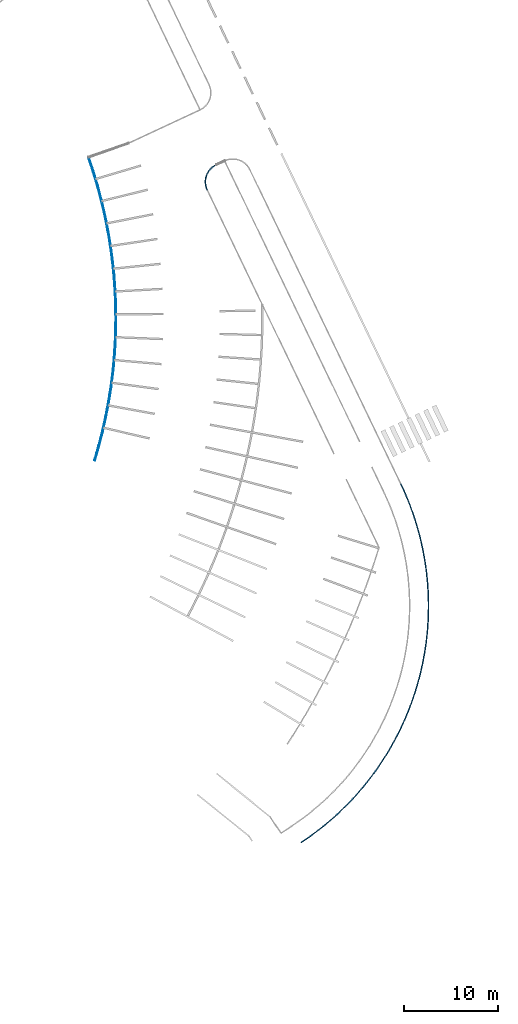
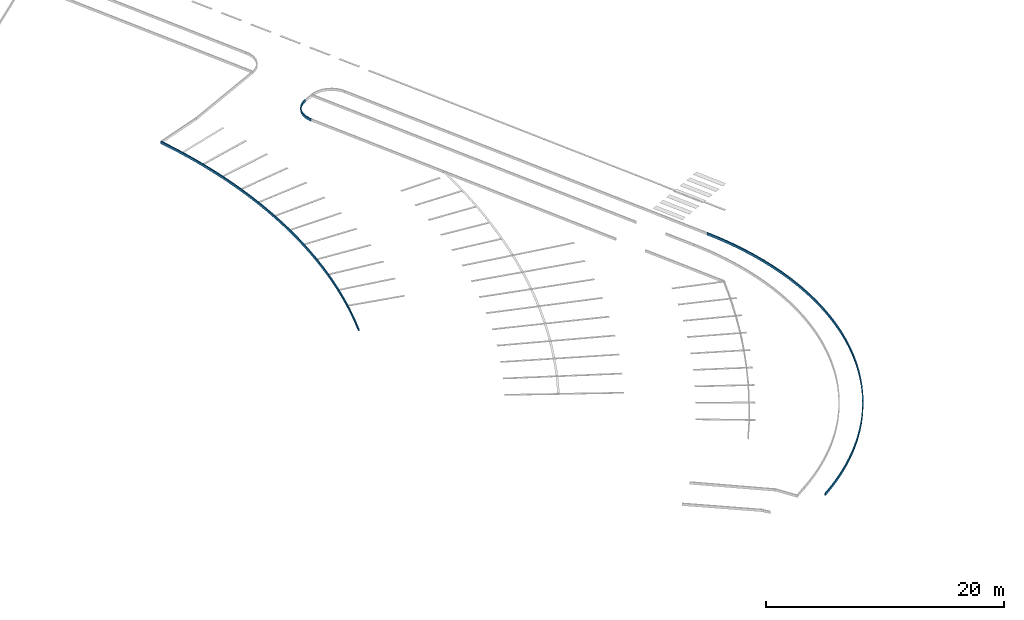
# One storey, part 117 of 157: 3 beams.
"""IFC2X3 building model written with IfcOpenShell, lengths in millimetres."""

from ifc_helpers import new_model, entity, si_unit, converted_unit, derived_unit, direction, frame, origin, place, context, subcontext, project, spatial, faceted_brep, material, type_object, element, save


model = new_model("IFC2X3")

# Units and contexts
model_context = context("Model", 3, precision=0.01, world=origin(), true_north=direction((6.123031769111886e-17, 1.0)))
body_context = subcontext(model_context, "Body", "Model", "MODEL_VIEW")
ifc_project = project(units=[si_unit("LENGTHUNIT", "METRE", prefix="MILLI"), si_unit("AREAUNIT", "SQUARE_METRE"), si_unit("VOLUMEUNIT", "CUBIC_METRE"), converted_unit("PLANEANGLEUNIT", "DEGREE", entity("IfcRatioMeasure", 0.017453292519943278), si_unit("PLANEANGLEUNIT", "RADIAN"), dimensions=[0, 0, 0, 0, 0, 0, 0]), si_unit("MASSUNIT", "GRAM", prefix="KILO"), derived_unit("MASSDENSITYUNIT", [(si_unit("MASSUNIT", "GRAM", prefix="KILO"), 1), (si_unit("LENGTHUNIT", "METRE"), -3)]), derived_unit("MOMENTOFINERTIAUNIT", [(si_unit("LENGTHUNIT", "METRE"), 4)]), si_unit("TIMEUNIT", "SECOND"), si_unit("FREQUENCYUNIT", "HERTZ"), si_unit("THERMODYNAMICTEMPERATUREUNIT", "DEGREE_CELSIUS"), derived_unit("THERMALTRANSMITTANCEUNIT", [(si_unit("MASSUNIT", "GRAM", prefix="KILO"), 1), (si_unit("THERMODYNAMICTEMPERATUREUNIT", "KELVIN"), -1), (si_unit("TIMEUNIT", "SECOND"), -3)]), derived_unit("THERMALCONDUCTANCEUNIT", [(si_unit("MASSUNIT", "GRAM", prefix="KILO"), 1), (si_unit("LENGTHUNIT", "METRE"), 1), (si_unit("THERMODYNAMICTEMPERATUREUNIT", "KELVIN"), -1), (si_unit("TIMEUNIT", "SECOND"), -3)]), derived_unit("VOLUMETRICFLOWRATEUNIT", [(si_unit("LENGTHUNIT", "METRE"), 3), (si_unit("TIMEUNIT", "SECOND"), -1)]), derived_unit("MASSFLOWRATEUNIT", [(si_unit("MASSUNIT", "GRAM", prefix="KILO"), 1), (si_unit("TIMEUNIT", "SECOND"), -1)]), derived_unit("ROTATIONALFREQUENCYUNIT", [(si_unit("TIMEUNIT", "SECOND"), -1)]), si_unit("ELECTRICCURRENTUNIT", "AMPERE"), si_unit("ELECTRICVOLTAGEUNIT", "VOLT"), si_unit("POWERUNIT", "WATT"), converted_unit("FORCEUNIT", "KIP", entity("IfcRatioMeasure", 2.088543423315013e-05), si_unit("FORCEUNIT", "NEWTON"), dimensions=[1, 1, -2, 0, 0, 0, 0]), si_unit("ILLUMINANCEUNIT", "LUX"), si_unit("LUMINOUSFLUXUNIT", "LUMEN"), si_unit("LUMINOUSINTENSITYUNIT", "CANDELA"), derived_unit("USERDEFINED", [(si_unit("MASSUNIT", "GRAM", prefix="KILO"), -1), (si_unit("LENGTHUNIT", "METRE"), -2), (si_unit("TIMEUNIT", "SECOND"), 3), (si_unit("LUMINOUSFLUXUNIT", "LUMEN"), 1)]), derived_unit("USERDEFINED", [(si_unit("MASSUNIT", "GRAM", prefix="KILO"), 1), (si_unit("LENGTHUNIT", "METRE"), 3), (si_unit("TIMEUNIT", "SECOND"), -3), (si_unit("ELECTRICCURRENTUNIT", "AMPERE"), -2)]), derived_unit("USERDEFINED", [(si_unit("LENGTHUNIT", "METRE"), 2), (si_unit("TIMEUNIT", "SECOND"), -2)]), derived_unit("SOUNDPOWERUNIT", [(si_unit("MASSUNIT", "GRAM", prefix="KILO"), 1), (si_unit("LENGTHUNIT", "METRE"), 2), (si_unit("TIMEUNIT", "SECOND"), -3)]), derived_unit("SOUNDPRESSUREUNIT", [(si_unit("MASSUNIT", "GRAM", prefix="KILO"), 1), (si_unit("LENGTHUNIT", "METRE"), -1), (si_unit("TIMEUNIT", "SECOND"), -2)]), derived_unit("LINEARVELOCITYUNIT", [(si_unit("LENGTHUNIT", "METRE"), 1), (si_unit("TIMEUNIT", "SECOND"), -1)]), si_unit("PRESSUREUNIT", "PASCAL"), derived_unit("USERDEFINED", [(si_unit("LENGTHUNIT", "METRE"), -2), (si_unit("MASSUNIT", "GRAM", prefix="KILO"), 1), (si_unit("TIMEUNIT", "SECOND"), -2)]), derived_unit("LINEARFORCEUNIT", [(si_unit("MASSUNIT", "GRAM", prefix="KILO"), 1), (si_unit("LENGTHUNIT", "METRE"), 1), (si_unit("TIMEUNIT", "SECOND"), -2), (si_unit("LENGTHUNIT", "METRE"), -1)]), derived_unit("PLANARFORCEUNIT", [(si_unit("MASSUNIT", "GRAM", prefix="KILO"), 1), (si_unit("LENGTHUNIT", "METRE"), 1), (si_unit("TIMEUNIT", "SECOND"), -2), (si_unit("LENGTHUNIT", "METRE"), -2)]), derived_unit("SPECIFICHEATCAPACITYUNIT", [(si_unit("LENGTHUNIT", "METRE"), 2), (si_unit("TIMEUNIT", "SECOND"), -2), (si_unit("THERMODYNAMICTEMPERATUREUNIT", "KELVIN"), -1)]), derived_unit("VAPORPERMEABILITYUNIT", [(si_unit("TIMEUNIT", "SECOND"), 1), (si_unit("LENGTHUNIT", "METRE"), -1)]), derived_unit("DYNAMICVISCOSITYUNIT", [(si_unit("MASSUNIT", "GRAM", prefix="KILO"), 1), (si_unit("LENGTHUNIT", "METRE"), -1), (si_unit("TIMEUNIT", "SECOND"), -1)]), derived_unit("THERMALEXPANSIONCOEFFICIENTUNIT", [(si_unit("THERMODYNAMICTEMPERATUREUNIT", "KELVIN"), -1)])], contexts=[model_context])

# Site, building, storey
site_placement = place(None, frame((0.0, 0.0, 0.0), z_axis=(0.0, 0.0, 1.0), x_axis=(0.8191520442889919, 0.5735764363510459, 0.0)))
site = spatial("IfcSite", under=ifc_project, at=site_placement, Name="Default", CompositionType="ELEMENT")
building_placement = place(site_placement, origin())
building = spatial("IfcBuilding", under=site, at=building_placement, CompositionType="ELEMENT")
storey_placement = place(building_placement, origin())
storey = spatial("IfcBuildingStorey", under=building, at=storey_placement, Name="1.EG +0.00", CompositionType="ELEMENT", Elevation=-4.331468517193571e-12)

# Beams
ifc_material = material(Name="Paveta_bordur")
beam_type_1 = type_object("IfcBeamType", Name="Beam-144", PredefinedType="NOTDEFINED")
beam_1_placement = place(storey_placement, frame((-13927.409499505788, -154301.68766365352, 260.0)))
element("IfcBeam", 1, at=beam_1_placement, inside=storey, type_object=beam_type_1, material=ifc_material, Name="Beam-144:Beam-144", ObjectType="Beam-144:Beam-144", context=body_context, shape_type="Brep", body=[
    faceted_brep([(4.402758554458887, 112.54106146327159, 250.0), (4.402758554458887, 112.54106146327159, 0.0), (1.5952722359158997, 12.58047912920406, 0.0), (1.5952722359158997, 12.58047912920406, 250.0), (30497.38357112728, 25177.012778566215, 250.0), (30497.38357112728, 25177.012778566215, 0.0), (30398.7075689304, 25193.23148968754, 0.0), (30398.7075689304, 25193.23148968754, 250.0), (24671.965879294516, 11739.813377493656, 0.0), (23900.87172071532, 10777.941889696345, 0.0), (23090.97418255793, 9848.507148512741, 0.0), (22243.63634906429, 8953.073423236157, 0.0), (21360.284317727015, 8093.147758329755, 0.0), (20442.404799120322, 7270.177437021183, 0.0), (19491.542614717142, 6485.547545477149, 0.0), (18509.298096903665, 5740.578641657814, 0.0), (17497.324395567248, 5036.524532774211, 0.0), (16457.324695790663, 4374.570165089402, 0.0), (15391.049351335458, 3755.8296296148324, 0.0), (14300.292938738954, 3181.3442870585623, 0.0), (13186.891236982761, 2652.0810151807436, 0.0), (12052.718137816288, 2168.9305815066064, 0.0), (10899.68249193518, 1732.706144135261, 0.0), (9729.724896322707, 1344.1418831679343, 0.0), (8544.814428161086, 1003.8917650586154, 0.0), (7346.945330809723, 712.5284419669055, 0.0), (6138.13365742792, 470.54228796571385, 0.0), (4920.413877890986, 278.3405737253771, 0.0), (3695.8354547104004, 136.2467810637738, 0.0), (2466.4593937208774, 44.50005851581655, 0.0), (1234.354775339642, 3.2548188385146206, 0.0), (618.6836607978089, 101.59241099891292, 0.0), (1233.0599005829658, 103.24643498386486, 0.0), (1847.2729468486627, 117.50243740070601, 0.0), (2461.064337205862, 144.35441928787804, 0.0), (3074.175786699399, 183.79108126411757, 0.0), (3686.349296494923, 235.79582828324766, 0.0), (4297.327262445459, 300.3467766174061, 0.0), (4906.852583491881, 377.4167630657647, 0.0), (5514.668769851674, 466.97335638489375, 0.0), (6120.520050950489, 568.9788709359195, 0.0), (6724.151483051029, 683.3903825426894, 0.0), (7325.309056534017, 810.1597465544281, 0.0), (7923.739802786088, 949.233618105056, 0.0), (8519.191900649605, 1100.5534745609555, 0.0), (9111.414782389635, 1264.0556401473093, 0.0), (9700.159239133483, 1439.6713127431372, 0.0), (10285.177525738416, 1627.3265928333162, 0.0), (10866.223465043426, 1826.9425146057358, 0.0), (11443.052551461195, 2038.435079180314, 0.0), (12015.422053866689, 2261.7152899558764, 0.0), (12583.091117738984, 2496.689190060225, 0.0), (13145.820866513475, 2743.257901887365, 0.0), (13703.374502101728, 3001.3176687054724, 0.0), (14255.517404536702, 3270.7598983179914, 0.0), (14802.017230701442, 3551.4712087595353, 0.0), (15342.644012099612, 3843.3334760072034, 0.0), (15877.17025162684, 4146.223883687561, 0.0), (16405.371019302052, 4460.014974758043, 0.0), (16927.024046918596, 4784.574705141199, 0.0), (17441.909821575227, 5119.766499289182, 0.0), (17949.811678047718, 5465.449307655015, 0.0), (18450.515889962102, 5821.477666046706, 0.0), (18943.811759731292, 6187.701756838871, 0.0), (19429.49170721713, 6563.967472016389, 0.0), (19907.351357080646, 6950.116478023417, 0.0), (20377.1896247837, 7345.986282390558, 0.0), (20838.808801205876, 7751.410302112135, 0.0), (21292.01463584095, 8166.2179337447, 0.0), (21736.61641853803, 8590.234625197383, 0.0), (22172.427059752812, 9023.281949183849, 0.0), (22599.26316927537, 9465.177678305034, 0.0), (23016.945133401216, 9915.735861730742, 0.0), (23425.29719051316, 10374.76690344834, 0.0), (23824.147505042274, 10842.077642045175, 0.0), (24213.32823977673, 11317.4714319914, 0.0), (24592.675626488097, 11800.748226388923, 0.0), (24962.030034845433, 12291.70466115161, 0.0), (25321.236039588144, 12790.134140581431, 0.0), (25670.14248592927, 13295.826924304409, 0.0), (26008.60255316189, 13808.570215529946, 0.0), (26336.473816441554, 14328.148250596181, 0.0), (26653.618306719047, 14854.34238976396, 0.0), (26959.902568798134, 15386.93120922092, 0.0), (27255.197717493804, 15925.690594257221, 0.0), (27539.379491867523, 16470.39383357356, 0.0), (27812.32830751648, 17020.81171468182, 0.0), (28073.92930689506, 17576.71262035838, 0.0), (28324.0724076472, 18137.86262610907, 0.0), (28562.65234892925, 18704.02559860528, 0.0), (28789.568735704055, 19274.963295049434, 0.0), (29004.726080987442, 19850.435463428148, 0.0), (29208.03384602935, 20430.199943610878, 0.0), (29399.406478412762, 21014.01276925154, 0.0), (29578.763448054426, 21601.628270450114, 0.0), (29746.029281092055, 22192.79917713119, 0.0), (29901.133591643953, 22787.276723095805, 0.0), (30044.01111142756, 23384.810750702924, 0.0), (30174.60171722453, 23985.149816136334, 0.0), (30292.85045618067, 24588.04129521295, 0.0), (30272.52945280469, 23964.897443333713, 0.0), (29998.148245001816, 22763.02477402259, 0.0), (29674.701740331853, 21573.41756193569, 0.0), (29302.734309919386, 20398.077955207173, 0.0), (28882.871987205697, 19238.98408912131, 0.0), (28415.821414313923, 18098.086756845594, 0.0), (27902.36865274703, 16977.306126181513, 0.0), (27343.377860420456, 15878.528507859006, 0.0), (26739.789837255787, 14803.603180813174, 0.0), (26092.62044178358, 13754.339279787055, 0.0), (25402.95888141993, 12732.50275049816, 0.0), (6138.133657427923, 470.5422879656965, 250.0), (4920.413877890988, 278.3405737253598, 250.0), (7346.945330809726, 712.5284419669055, 250.0), (8544.814428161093, 1003.8917650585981, 250.0), (1234.354775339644, 3.2548188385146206, 250.0), (2466.4593937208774, 44.50005851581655, 250.0), (3695.8354547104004, 136.2467810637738, 250.0), (9729.724896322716, 1344.141883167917, 250.0), (15391.04935133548, 3755.8296296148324, 250.0), (16457.324695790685, 4374.570165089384, 250.0), (17497.324395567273, 5036.524532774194, 250.0), (18509.298096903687, 5740.578641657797, 250.0), (10899.682491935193, 1732.7061441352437, 250.0), (12052.718137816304, 2168.930581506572, 250.0), (14300.292938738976, 3181.3442870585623, 250.0), (13186.891236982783, 2652.0810151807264, 250.0), (19491.542614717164, 6485.54754547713, 250.0), (20442.404799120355, 7270.177437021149, 250.0), (24671.965879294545, 11739.813377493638, 250.0), (23900.871720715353, 10777.94188969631, 250.0), (25402.958881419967, 12732.502750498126, 250.0), (26092.62044178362, 13754.33927978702, 250.0), (21360.284317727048, 8093.147758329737, 250.0), (22243.63634906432, 8953.073423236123, 250.0), (23090.974182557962, 9848.507148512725, 250.0), (26739.789837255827, 14803.603180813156, 250.0), (29302.73430991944, 20398.077955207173, 250.0), (29674.701740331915, 21573.41756193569, 250.0), (29998.14824500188, 22763.024774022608, 250.0), (30272.52945280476, 23964.897443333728, 250.0), (27343.3778604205, 15878.528507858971, 250.0), (27902.368652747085, 16977.3061261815, 250.0), (28882.87198720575, 19238.98408912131, 250.0), (28415.821414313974, 18098.086756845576, 250.0), (24962.030034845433, 12291.70466115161, 250.0), (24592.675626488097, 11800.748226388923, 250.0), (24213.32823977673, 11317.4714319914, 250.0), (23824.147505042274, 10842.077642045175, 250.0), (23425.29719051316, 10374.76690344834, 250.0), (23016.945133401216, 9915.735861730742, 250.0), (22599.26316927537, 9465.177678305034, 250.0), (22172.427059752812, 9023.281949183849, 250.0), (21736.61641853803, 8590.234625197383, 250.0), (21292.01463584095, 8166.2179337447, 250.0), (20838.808801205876, 7751.410302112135, 250.0), (20377.1896247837, 7345.986282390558, 250.0), (19907.351357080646, 6950.116478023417, 250.0), (19429.49170721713, 6563.967472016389, 250.0), (18943.811759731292, 6187.701756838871, 250.0), (18450.515889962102, 5821.477666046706, 250.0), (17949.811678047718, 5465.449307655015, 250.0), (17441.909821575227, 5119.766499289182, 250.0), (16927.024046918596, 4784.574705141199, 250.0), (16405.371019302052, 4460.014974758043, 250.0), (15877.17025162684, 4146.223883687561, 250.0), (15342.644012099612, 3843.3334760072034, 250.0), (14802.017230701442, 3551.4712087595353, 250.0), (14255.517404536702, 3270.7598983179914, 250.0), (13703.374502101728, 3001.3176687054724, 250.0), (13145.820866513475, 2743.257901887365, 250.0), (12583.091117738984, 2496.689190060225, 250.0), (12015.422053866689, 2261.7152899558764, 250.0), (11443.052551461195, 2038.435079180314, 250.0), (10866.223465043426, 1826.9425146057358, 250.0), (10285.177525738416, 1627.3265928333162, 250.0), (9700.159239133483, 1439.6713127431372, 250.0), (9111.414782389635, 1264.0556401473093, 250.0), (8519.191900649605, 1100.5534745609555, 250.0), (7923.739802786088, 949.233618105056, 250.0), (7325.309056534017, 810.1597465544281, 250.0), (6724.151483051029, 683.3903825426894, 250.0), (6120.520050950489, 568.9788709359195, 250.0), (5514.668769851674, 466.97335638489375, 250.0), (4906.852583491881, 377.4167630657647, 250.0), (4297.327262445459, 300.3467766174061, 250.0), (3686.349296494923, 235.79582828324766, 250.0), (3074.175786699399, 183.79108126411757, 250.0), (2461.064337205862, 144.35441928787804, 250.0), (1847.2729468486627, 117.50243740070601, 250.0), (1233.0599005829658, 103.24643498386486, 250.0), (618.6836607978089, 101.59241099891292, 250.0), (30292.85045618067, 24588.04129521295, 250.0), (30174.60171722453, 23985.149816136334, 250.0), (30044.01111142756, 23384.810750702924, 250.0), (29901.133591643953, 22787.276723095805, 250.0), (29746.029281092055, 22192.79917713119, 250.0), (29578.763448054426, 21601.628270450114, 250.0), (29399.406478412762, 21014.01276925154, 250.0), (29208.03384602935, 20430.199943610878, 250.0), (29004.726080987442, 19850.435463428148, 250.0), (28789.568735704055, 19274.963295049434, 250.0), (28562.65234892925, 18704.02559860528, 250.0), (28324.0724076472, 18137.86262610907, 250.0), (28073.92930689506, 17576.71262035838, 250.0), (27812.32830751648, 17020.81171468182, 250.0), (27539.379491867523, 16470.39383357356, 250.0), (27255.197717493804, 15925.690594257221, 250.0), (26959.902568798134, 15386.93120922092, 250.0), (26653.618306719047, 14854.34238976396, 250.0), (26336.473816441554, 14328.148250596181, 250.0), (26008.60255316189, 13808.570215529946, 250.0), (25670.14248592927, 13295.826924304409, 250.0), (25321.236039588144, 12790.134140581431, 250.0)], [[[0, 1, 2, 3]], [[4, 5, 6, 7]], [[8, 9, 10, 11, 12, 13, 14, 15, 16, 17, 18, 19, 20, 21, 22, 23, 24, 25, 26, 27, 28, 29, 30, 2, 1, 31, 32, 33, 34, 35, 36, 37, 38, 39, 40, 41, 42, 43, 44, 45, 46, 47, 48, 49, 50, 51, 52, 53, 54, 55, 56, 57, 58, 59, 60, 61, 62, 63, 64, 65, 66, 67, 68, 69, 70, 71, 72, 73, 74, 75, 76, 77, 78, 79, 80, 81, 82, 83, 84, 85, 86, 87, 88, 89, 90, 91, 92, 93, 94, 95, 96, 97, 98, 99, 6, 5, 100, 101, 102, 103, 104, 105, 106, 107, 108, 109, 110]], [[26, 111, 112, 27]], [[25, 113, 111, 26]], [[24, 114, 113, 25]], [[115, 3, 2, 30]], [[116, 29, 28, 117]], [[27, 112, 117, 28]], [[115, 30, 29, 116]], [[114, 24, 23, 118]], [[119, 18, 17, 120]], [[120, 17, 16, 121]], [[121, 16, 15, 122]], [[123, 22, 21, 124]], [[20, 19, 125, 126]], [[20, 126, 124, 21]], [[125, 19, 18, 119]], [[22, 123, 118, 23]], [[122, 15, 14, 127]], [[14, 13, 128, 127]], [[8, 129, 130, 9]], [[110, 131, 129, 8]], [[109, 132, 131, 110]], [[128, 13, 12, 133]], [[134, 11, 10, 135]], [[12, 11, 134, 133]], [[9, 130, 135, 10]], [[132, 109, 108, 136]], [[137, 103, 102, 138]], [[138, 102, 101, 139]], [[139, 101, 100, 140]], [[141, 107, 106, 142]], [[105, 104, 143, 144]], [[105, 144, 142, 106]], [[143, 104, 103, 137]], [[107, 141, 136, 108]], [[140, 100, 5, 4]], [[145, 146, 147, 148, 149, 150, 151, 152, 153, 154, 155, 156, 157, 158, 159, 160, 161, 162, 163, 164, 165, 166, 167, 168, 169, 170, 171, 172, 173, 174, 175, 176, 177, 178, 179, 180, 181, 182, 183, 184, 185, 186, 187, 188, 189, 190, 191, 0, 3, 115, 116, 117, 112, 111, 113, 114, 118, 123, 124, 126, 125, 119, 120, 121, 122, 127, 128, 133, 134, 135, 130, 129, 131, 132, 136, 141, 142, 144, 143, 137, 138, 139, 140, 4, 7, 192, 193, 194, 195, 196, 197, 198, 199, 200, 201, 202, 203, 204, 205, 206, 207, 208, 209, 210, 211, 212, 213]], [[40, 182, 181, 41]], [[39, 183, 182, 40]], [[41, 181, 180, 42]], [[45, 44, 178, 177]], [[43, 179, 178, 44]], [[42, 180, 179, 43]], [[45, 177, 176, 46]], [[31, 1, 0, 191]], [[190, 32, 31, 191]], [[32, 190, 189, 33]], [[38, 37, 185, 184]], [[36, 35, 187, 186]], [[36, 186, 185, 37]], [[184, 183, 39, 38]], [[47, 46, 176, 175]], [[58, 57, 165, 164]], [[57, 56, 166, 165]], [[59, 58, 164, 163]], [[160, 159, 63, 62]], [[61, 60, 162, 161]], [[62, 61, 161, 160]], [[163, 162, 60, 59]], [[64, 63, 159, 158]], [[173, 172, 50, 49]], [[49, 48, 174, 173]], [[172, 171, 51, 50]], [[54, 168, 167, 55]], [[170, 169, 53, 52]], [[169, 168, 54, 53]], [[51, 171, 170, 52]], [[56, 55, 167, 166]], [[47, 175, 174, 48]], [[65, 64, 158, 157]], [[189, 188, 34, 33]], [[187, 35, 34, 188]], [[75, 147, 146, 76]], [[74, 148, 147, 75]], [[76, 146, 145, 77]], [[80, 79, 212, 211]], [[78, 213, 212, 79]], [[77, 145, 213, 78]], [[80, 211, 210, 81]], [[68, 67, 155, 154]], [[67, 66, 156, 155]], [[69, 68, 154, 153]], [[150, 149, 73, 72]], [[71, 70, 152, 151]], [[72, 71, 151, 150]], [[153, 152, 70, 69]], [[73, 149, 148, 74]], [[82, 81, 210, 209]], [[93, 92, 199, 198]], [[92, 91, 200, 199]], [[94, 93, 198, 197]], [[194, 193, 98, 97]], [[96, 95, 196, 195]], [[97, 96, 195, 194]], [[197, 196, 95, 94]], [[99, 98, 193, 192]], [[207, 206, 85, 84]], [[84, 83, 208, 207]], [[206, 205, 86, 85]], [[89, 202, 201, 90]], [[204, 203, 88, 87]], [[203, 202, 89, 88]], [[86, 205, 204, 87]], [[91, 90, 201, 200]], [[82, 209, 208, 83]], [[6, 99, 192, 7]], [[156, 66, 65, 157]]]),
])
beam_type_2 = type_object("IfcBeamType", Name="Beam-139", PredefinedType="NOTDEFINED")
beam_2_placement = place(storey_placement, frame((17516.640413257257, -91927.95052817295, 260.0)))
element("IfcBeam", 2, at=beam_2_placement, inside=storey, type_object=beam_type_2, material=ifc_material, Name="Beam-139:Beam-139", ObjectType="Beam-139:Beam-139", context=body_context, shape_type="Brep", body=[
    faceted_brep([(2360.76643091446, 1606.110556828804, 250.0), (2360.76643091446, 1606.110556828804, 0.0), (2378.0132507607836, 1704.6120654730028, 0.0), (2378.0132507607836, 1704.6120654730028, 250.0), (1.5952722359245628, 17.813945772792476, 250.0), (1.5952722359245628, 17.813945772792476, 0.0), (100.27128061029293, 1.5952722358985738, 0.0), (100.27128061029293, 1.5952722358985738, 250.0), (443.3746903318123, 990.2027698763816, 0.0), (546.0139274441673, 1105.442611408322, 0.0), (657.0312936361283, 1212.6348614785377, 0.0), (775.7976675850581, 1311.1720752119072, 0.0), (901.6400153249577, 1400.4958547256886, 0.0), (1033.8452042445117, 1480.1000134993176, 0.0), (1171.6640443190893, 1549.5334448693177, 0.0), (1314.3155336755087, 1608.402678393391, 0.0), (1460.99128443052, 1656.3741095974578, 0.0), (1610.8601037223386, 1693.1758904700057, 0.0), (1763.0727039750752, 1718.5994699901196, 0.0), (1916.7665157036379, 1732.5007759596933, 0.0), (2071.070575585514, 1734.8010314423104, 0.0), (2225.11046209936, 1725.4872011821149, 0.0), (2208.0148311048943, 1626.672225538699, 0.0), (2054.1164453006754, 1635.105511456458, 0.0), (1900.0327421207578, 1631.3577282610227, 0.0), (1746.7263479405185, 1615.45228994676, 0.0), (1595.1550329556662, 1587.4885645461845, 0.0), (1446.265727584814, 1547.6412533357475, 0.0), (1300.9886065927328, 1496.159299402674, 0.0), (1160.2312778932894, 1433.3643323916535, 0.0), (1024.8731123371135, 1359.6486591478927, 0.0), (895.7597499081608, 1275.472812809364, 0.0), (773.697816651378, 1181.3626756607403, 0.0), (659.4498853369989, 1077.9061937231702, 0.0), (553.7297113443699, 965.7497036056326, 0.0), (457.19777352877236, 845.5938945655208, 0.0), (370.4571479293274, 718.1894310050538, 0.0), (294.04974009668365, 584.3322627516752, 0.0), (228.45289957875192, 444.8586524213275, 0.0), (174.0764377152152, 300.6399509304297, 0.0), (131.26006737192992, 152.5771537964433, 0.0), (32.33802909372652, 169.04197548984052, 0.0), (74.36985114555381, 317.52887729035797, 0.0), (127.45254939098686, 462.43319474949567, 0.0), (191.2853109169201, 602.9337734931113, 0.0), (265.5064035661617, 738.2344145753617, 0.0), (349.6952258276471, 867.5683864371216, 0.0), (2225.11046209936, 1725.4872011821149, 250.0), (1916.7665157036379, 1732.5007759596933, 250.0), (2071.070575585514, 1734.8010314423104, 250.0), (1763.0727039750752, 1718.5994699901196, 250.0), (1314.3155336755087, 1608.402678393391, 250.0), (1171.6640443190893, 1549.5334448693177, 250.0), (1033.8452042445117, 1480.1000134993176, 250.0), (1610.8601037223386, 1693.1758904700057, 250.0), (1460.99128443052, 1656.3741095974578, 250.0), (901.6400153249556, 1400.4958547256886, 250.0), (775.7976675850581, 1311.1720752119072, 250.0), (546.0139274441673, 1105.442611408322, 250.0), (443.3746903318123, 990.2027698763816, 250.0), (657.0312936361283, 1212.6348614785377, 250.0), (349.6952258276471, 867.5683864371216, 250.0), (127.45254939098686, 462.43319474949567, 250.0), (74.36985114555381, 317.52887729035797, 250.0), (32.33802909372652, 169.04197548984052, 250.0), (265.5064035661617, 738.2344145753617, 250.0), (191.2853109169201, 602.9337734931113, 250.0), (457.19777352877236, 845.5938945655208, 250.0), (553.7297113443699, 965.7497036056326, 250.0), (659.4498853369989, 1077.9061937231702, 250.0), (773.697816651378, 1181.3626756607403, 250.0), (895.7597499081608, 1275.472812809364, 250.0), (1024.8731123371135, 1359.6486591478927, 250.0), (1160.2312778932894, 1433.3643323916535, 250.0), (1300.9886065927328, 1496.159299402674, 250.0), (1446.265727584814, 1547.6412533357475, 250.0), (1595.1550329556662, 1587.4885645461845, 250.0), (1746.7263479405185, 1615.45228994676, 250.0), (1900.0327421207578, 1631.3577282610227, 250.0), (2054.1164453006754, 1635.105511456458, 250.0), (2208.0148311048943, 1626.672225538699, 250.0), (131.26006737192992, 152.5771537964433, 250.0), (174.0764377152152, 300.6399509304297, 250.0), (228.45289957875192, 444.8586524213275, 250.0), (294.04974009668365, 584.3322627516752, 250.0), (370.4571479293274, 718.1894310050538, 250.0)], [[[0, 1, 2, 3]], [[4, 5, 6, 7]], [[8, 9, 10, 11, 12, 13, 14, 15, 16, 17, 18, 19, 20, 21, 2, 1, 22, 23, 24, 25, 26, 27, 28, 29, 30, 31, 32, 33, 34, 35, 36, 37, 38, 39, 40, 6, 5, 41, 42, 43, 44, 45, 46]], [[47, 3, 2, 21]], [[48, 49, 20, 19]], [[20, 49, 47, 21]], [[18, 50, 48, 19]], [[51, 15, 14, 52]], [[52, 14, 13, 53]], [[54, 17, 16, 55]], [[15, 51, 55, 16]], [[17, 54, 50, 18]], [[53, 13, 12, 56]], [[12, 11, 57, 56]], [[58, 9, 8, 59]], [[57, 11, 10, 60]], [[9, 58, 60, 10]], [[59, 8, 46, 61]], [[62, 43, 42, 63]], [[63, 42, 41, 64]], [[65, 45, 44, 66]], [[66, 44, 43, 62]], [[45, 65, 61, 46]], [[64, 41, 5, 4]], [[67, 68, 69, 70, 71, 72, 73, 74, 75, 76, 77, 78, 79, 80, 0, 3, 47, 49, 48, 50, 54, 55, 51, 52, 53, 56, 57, 60, 58, 59, 61, 65, 66, 62, 63, 64, 4, 7, 81, 82, 83, 84, 85]], [[22, 1, 0, 80]], [[79, 23, 22, 80]], [[23, 79, 78, 24]], [[73, 72, 30, 29]], [[28, 27, 75, 74]], [[29, 28, 74, 73]], [[26, 76, 75, 27]], [[31, 30, 72, 71]], [[77, 25, 24, 78]], [[25, 77, 76, 26]], [[35, 34, 68, 67]], [[33, 32, 70, 69]], [[33, 69, 68, 34]], [[36, 35, 67, 85]], [[82, 81, 40, 39]], [[38, 37, 84, 83]], [[39, 38, 83, 82]], [[85, 84, 37, 36]], [[6, 40, 81, 7]], [[70, 32, 31, 71]]]),
])
beam_type_3 = type_object("IfcBeamType", Name="Beam-141", PredefinedType="NOTDEFINED")
beam_3_placement = place(storey_placement, frame((-8669.344595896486, -108587.90037678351, 260.0)))
element("IfcBeam", 3, at=beam_3_placement, inside=storey, type_object=beam_type_3, material=ifc_material, Name="Beam-141:Beam-141", ObjectType="Beam-141:Beam-141", context=body_context, shape_type="Brep", body=[
    faceted_brep([(1.5952722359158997, 80.42885321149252, 250.0), (1.5952722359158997, 80.42885321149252, 0.0), (63.119791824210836, 1.5952722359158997, 0.0), (63.119791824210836, 1.5952722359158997, 250.0), (17979.5422023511, 26710.622855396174, 0.0), (17883.262256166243, 26737.644549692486, 0.0), (17883.262256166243, 26737.644549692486, 250.0), (17979.5422023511, 26710.622855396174, 250.0), (13824.926917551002, 16367.2434590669, 0.0), (13052.008158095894, 14971.54500102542, 0.0), (12236.269185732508, 13600.43321730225, 0.0), (11378.491351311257, 12255.221419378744, 0.0), (10934.093064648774, 11592.731675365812, 0.0), (10014.809839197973, 10288.777709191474, 0.0), (9055.61556365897, 9013.895778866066, 0.0), (8057.428996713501, 7769.3070226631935, 0.0), (7021.2062455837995, 6556.203562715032, 0.0), (5947.939850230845, 5375.747363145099, 0.0), (4838.6578326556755, 4229.069117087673, 0.0), (3694.4227122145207, 3117.2671636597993, 0.0), (2516.3304878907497, 2041.4064359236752, 0.0), (1305.5095884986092, 1002.5174408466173, 0.0), (625.4500564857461, 575.1217981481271, 0.0), (1241.575001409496, 1079.4093687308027, 0.0), (1849.8225602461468, 1593.1708004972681, 0.0), (2450.047072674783, 2116.283060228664, 0.0), (3042.10479969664, 2648.620875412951, 0.0), (3625.8539580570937, 3190.056764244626, 0.0), (4201.154754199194, 3740.461066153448, 0.0), (4767.869417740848, 4299.701972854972, 0.0), (5325.862234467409, 4867.645559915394, 0.0), (5874.999578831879, 5444.155818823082, 0.0), (6415.149945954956, 6029.094689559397, 0.0), (6946.183983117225, 6622.3220936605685, 0.0), (7467.974520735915, 7223.6959677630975, 0.0), (7980.396602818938, 7833.072297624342, 0.0), (8483.327516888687, 8450.30515261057, 0.0), (8976.646823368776, 9075.246720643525, 0.0), (9460.236384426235, 9707.74734359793, 0.0), (9933.9803922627, 10347.655553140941, 0.0), (10397.765396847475, 10994.818107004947, 0.0), (10851.480333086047, 11649.08002568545, 0.0), (11295.016547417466, 12310.284629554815, 0.0), (11728.267823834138, 12978.273576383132, 0.0), (12151.130409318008, 13652.886899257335, 0.0), (12563.5030386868, 14333.963044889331, 0.0), (12965.286958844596, 15021.338912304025, 0.0), (13356.385952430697, 15714.849891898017, 0.0), (13736.706360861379, 16414.329904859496, 0.0), (14106.157106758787, 17119.611442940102, 0.0), (14464.649715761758, 17830.52560856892, 0.0), (14812.098337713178, 18546.902155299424, 0.0), (15148.419767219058, 19268.569528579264, 0.0), (15473.533463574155, 19995.354906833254, 0.0), (15787.361570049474, 20727.084242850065, 0.0), (16089.828932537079, 21463.582305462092, 0.0), (16380.86311754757, 22204.67272150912, 0.0), (16660.394429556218, 22950.178018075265, 0.0), (16928.355927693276, 23699.919664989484, 0.0), (17184.68344177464, 24453.718117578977, 0.0), (17429.31558766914, 25211.392859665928, 0.0), (17662.193781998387, 25972.762446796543, 0.0), (17524.71322740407, 25181.404689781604, 0.0), (17022.779884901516, 23666.993743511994, 0.0), (16474.22294878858, 22168.840586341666, 0.0), (15879.567851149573, 20688.38021559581, 0.0), (15239.384178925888, 19227.03068166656, 0.0), (14554.285128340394, 17786.19172974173, 0.0), (2516.3304878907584, 2041.4064359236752, 250.0), (3694.422712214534, 3117.267163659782, 250.0), (1305.5095884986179, 1002.5174408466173, 250.0), (4838.657832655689, 4229.069117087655, 250.0), (8057.428996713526, 7769.307022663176, 250.0), (9055.615563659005, 9013.895778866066, 250.0), (10014.809839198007, 10288.777709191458, 250.0), (5947.939850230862, 5375.747363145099, 250.0), (7021.206245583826, 6556.203562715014, 250.0), (10934.093064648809, 11592.731675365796, 250.0), (11378.4913513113, 12255.22141937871, 250.0), (13052.008158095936, 14971.545001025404, 250.0), (13824.926917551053, 16367.243459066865, 250.0), (12236.26918573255, 13600.433217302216, 250.0), (14554.285128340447, 17786.191729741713, 250.0), (16474.222948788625, 22168.840586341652, 250.0), (17022.779884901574, 23666.993743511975, 250.0), (17524.71322740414, 25181.404689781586, 250.0), (15239.38417892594, 19227.030681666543, 250.0), (15879.567851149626, 20688.380215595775, 250.0), (14106.157106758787, 17119.611442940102, 250.0), (13736.706360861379, 16414.329904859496, 250.0), (13356.385952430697, 15714.849891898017, 250.0), (12965.286958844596, 15021.338912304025, 250.0), (12563.5030386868, 14333.963044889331, 250.0), (12151.130409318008, 13652.886899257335, 250.0), (11728.267823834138, 12978.273576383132, 250.0), (11295.016547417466, 12310.284629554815, 250.0), (10851.480333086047, 11649.08002568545, 250.0), (10397.765396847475, 10994.818107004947, 250.0), (9933.9803922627, 10347.655553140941, 250.0), (9460.236384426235, 9707.74734359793, 250.0), (8976.646823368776, 9075.246720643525, 250.0), (8483.327516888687, 8450.30515261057, 250.0), (7980.396602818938, 7833.072297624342, 250.0), (7467.974520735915, 7223.6959677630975, 250.0), (6946.183983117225, 6622.3220936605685, 250.0), (6415.149945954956, 6029.094689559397, 250.0), (5874.999578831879, 5444.155818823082, 250.0), (5325.862234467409, 4867.645559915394, 250.0), (4767.869417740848, 4299.701972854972, 250.0), (4201.154754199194, 3740.461066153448, 250.0), (3625.8539580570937, 3190.056764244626, 250.0), (3042.10479969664, 2648.620875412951, 250.0), (2450.047072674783, 2116.283060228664, 250.0), (1849.8225602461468, 1593.1708004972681, 250.0), (1241.575001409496, 1079.4093687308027, 250.0), (625.4500564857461, 575.1217981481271, 250.0), (17662.193781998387, 25972.762446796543, 250.0), (17429.31558766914, 25211.392859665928, 250.0), (17184.68344177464, 24453.718117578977, 250.0), (16928.355927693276, 23699.919664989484, 250.0), (16660.394429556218, 22950.178018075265, 250.0), (16380.86311754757, 22204.67272150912, 250.0), (16089.828932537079, 21463.582305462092, 250.0), (15787.361570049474, 20727.084242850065, 250.0), (15473.533463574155, 19995.354906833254, 250.0), (15148.419767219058, 19268.569528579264, 250.0), (14812.098337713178, 18546.902155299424, 250.0), (14464.649715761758, 17830.52560856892, 250.0)], [[[0, 1, 2, 3]], [[4, 5, 6, 7]], [[8, 9, 10, 11, 12, 13, 14, 15, 16, 17, 18, 19, 20, 21, 2, 1, 22, 23, 24, 25, 26, 27, 28, 29, 30, 31, 32, 33, 34, 35, 36, 37, 38, 39, 40, 41, 42, 43, 44, 45, 46, 47, 48, 49, 50, 51, 52, 53, 54, 55, 56, 57, 58, 59, 60, 61, 5, 4, 62, 63, 64, 65, 66, 67]], [[68, 20, 19, 69]], [[70, 21, 20, 68]], [[2, 21, 70, 3]], [[69, 19, 18, 71]], [[72, 15, 14, 73]], [[73, 14, 13, 74]], [[75, 17, 16, 76]], [[76, 16, 15, 72]], [[17, 75, 71, 18]], [[74, 13, 12, 77]], [[12, 11, 78, 77]], [[79, 9, 8, 80]], [[78, 11, 10, 81]], [[9, 79, 81, 10]], [[80, 8, 67, 82]], [[83, 64, 63, 84]], [[84, 63, 62, 85]], [[86, 66, 65, 87]], [[87, 65, 64, 83]], [[66, 86, 82, 67]], [[85, 62, 4, 7]], [[88, 89, 90, 91, 92, 93, 94, 95, 96, 97, 98, 99, 100, 101, 102, 103, 104, 105, 106, 107, 108, 109, 110, 111, 112, 113, 114, 115, 0, 3, 70, 68, 69, 71, 75, 76, 72, 73, 74, 77, 78, 81, 79, 80, 82, 86, 87, 83, 84, 85, 7, 6, 116, 117, 118, 119, 120, 121, 122, 123, 124, 125, 126, 127]], [[25, 112, 111, 26]], [[27, 110, 109, 28]], [[27, 26, 111, 110]], [[28, 109, 108, 29]], [[115, 22, 1, 0]], [[24, 23, 114, 113]], [[24, 113, 112, 25]], [[115, 114, 23, 22]], [[30, 29, 108, 107]], [[37, 36, 101, 100]], [[39, 38, 99, 98]], [[100, 99, 38, 37]], [[40, 39, 98, 97]], [[32, 31, 106, 105]], [[33, 32, 105, 104]], [[103, 102, 35, 34]], [[33, 104, 103, 34]], [[36, 35, 102, 101]], [[107, 106, 31, 30]], [[41, 40, 97, 96]], [[96, 95, 42, 41]], [[46, 91, 90, 47]], [[48, 89, 88, 49]], [[48, 47, 90, 89]], [[49, 88, 127, 50]], [[43, 42, 95, 94]], [[45, 44, 93, 92]], [[94, 93, 44, 43]], [[45, 92, 91, 46]], [[51, 50, 127, 126]], [[58, 57, 120, 119]], [[60, 59, 118, 117]], [[119, 118, 59, 58]], [[61, 60, 117, 116]], [[53, 52, 125, 124]], [[54, 53, 124, 123]], [[122, 121, 56, 55]], [[54, 123, 122, 55]], [[57, 56, 121, 120]], [[126, 125, 52, 51]], [[5, 61, 116, 6]]]),
])

save(model, "model.ifc")
